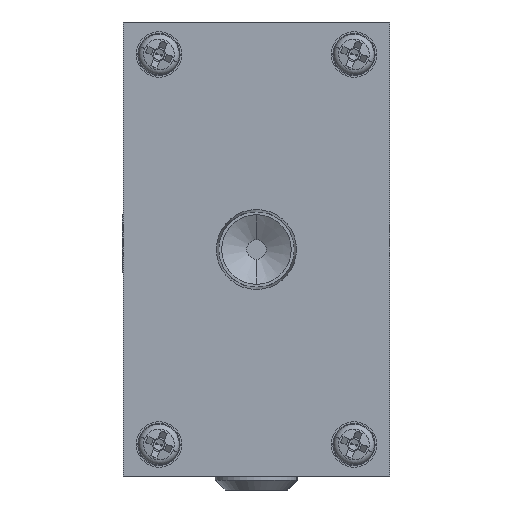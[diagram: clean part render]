
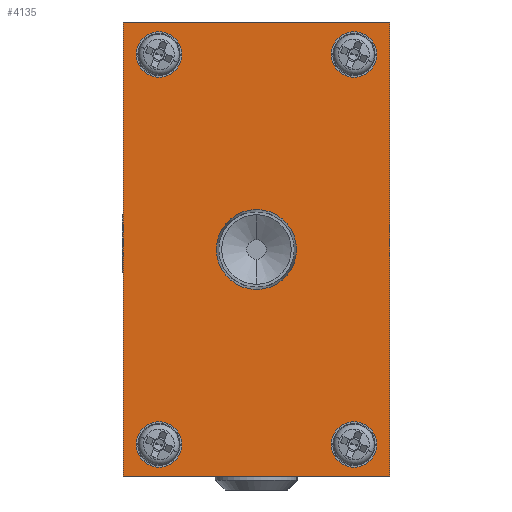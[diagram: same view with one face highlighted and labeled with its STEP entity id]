
A CAD part, left-side view. The second image highlights one B-rep face of the part: STEP entity #4135.
In plain terms, the highlighted planar face has unit normal (-1, 0, 0) as drawn and (1, 0, 0) by its records, which use the part's own axes.
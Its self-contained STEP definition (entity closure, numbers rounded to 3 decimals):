
#33 = ORIENTED_EDGE ( 'NONE', *, *, #12981, .F. ) ;
#87 = CARTESIAN_POINT ( 'NONE',  ( 67.5, 20.5, -35. ) ) ;
#346 = CARTESIAN_POINT ( 'NONE',  ( 67.5, 15., 30. ) ) ;
#549 = CIRCLE ( 'NONE', #6813, 3.5 ) ;
#817 = AXIS2_PLACEMENT_3D ( 'NONE', #1115, #1052, #13049 ) ;
#828 = LINE ( 'NONE', #14272, #14382 ) ;
#856 = VECTOR ( 'NONE', #16333, 1000. ) ;
#944 = DIRECTION ( 'NONE',  ( 0., 1., 0. ) ) ;
#1022 = EDGE_CURVE ( 'NONE', #16187, #15385, #13229, .T. ) ;
#1052 = DIRECTION ( 'NONE',  ( 1., 0., 0. ) ) ;
#1115 = CARTESIAN_POINT ( 'NONE',  ( 67.5, 0., 0. ) ) ;
#1361 = DIRECTION ( 'NONE',  ( 1., 0., 0. ) ) ;
#1448 = EDGE_LOOP ( 'NONE', ( #11435, #12507 ) ) ;
#1555 = CIRCLE ( 'NONE', #2667, 3.5 ) ;
#1631 = EDGE_CURVE ( 'NONE', #7691, #11756, #7262, .T. ) ;
#1636 = DIRECTION ( 'NONE',  ( 0., 1., 0. ) ) ;
#1683 = FACE_OUTER_BOUND ( 'NONE', #8848, .T. ) ;
#1716 = VERTEX_POINT ( 'NONE', #16175 ) ;
#1721 = DIRECTION ( 'NONE',  ( 1., 0., 0. ) ) ;
#1758 = CARTESIAN_POINT ( 'NONE',  ( 67.5, -18.5, 30. ) ) ;
#1786 = DIRECTION ( 'NONE',  ( 0., 1., 0. ) ) ;
#1804 = DIRECTION ( 'NONE',  ( 1., 0., 0. ) ) ;
#1808 = AXIS2_PLACEMENT_3D ( 'NONE', #346, #4069, #13270 ) ;
#2008 = EDGE_CURVE ( 'NONE', #2708, #2739, #14047, .T. ) ;
#2083 = EDGE_CURVE ( 'NONE', #2387, #1716, #2948, .T. ) ;
#2321 = DIRECTION ( 'NONE',  ( 1., 0., 0. ) ) ;
#2334 = DIRECTION ( 'NONE',  ( 0., 0., -1. ) ) ;
#2387 = VERTEX_POINT ( 'NONE', #9224 ) ;
#2667 = AXIS2_PLACEMENT_3D ( 'NONE', #16378, #4498, #8378 ) ;
#2704 = CARTESIAN_POINT ( 'NONE',  ( 67.5, -11.5, 30. ) ) ;
#2708 = VERTEX_POINT ( 'NONE', #4874 ) ;
#2739 = VERTEX_POINT ( 'NONE', #12696 ) ;
#2948 = CIRCLE ( 'NONE', #16710, 3.5 ) ;
#3026 = CARTESIAN_POINT ( 'NONE',  ( 67.5, 20.5, -35. ) ) ;
#3255 = ORIENTED_EDGE ( 'NONE', *, *, #2083, .F. ) ;
#3659 = CARTESIAN_POINT ( 'NONE',  ( 67.5, 15., -30. ) ) ;
#3984 = VERTEX_POINT ( 'NONE', #6004 ) ;
#4040 = EDGE_CURVE ( 'NONE', #5083, #11756, #12975, .T. ) ;
#4044 = AXIS2_PLACEMENT_3D ( 'NONE', #9855, #7352, #16519 ) ;
#4069 = DIRECTION ( 'NONE',  ( 1., 0., 0. ) ) ;
#4130 = ORIENTED_EDGE ( 'NONE', *, *, #14483, .F. ) ;
#4135 = ADVANCED_FACE ( 'NONE', ( #10908, #12556, #11921, #8454, #6401, #1683 ), #4962, .F. ) ;
#4244 = DIRECTION ( 'NONE',  ( 0., 1., 0. ) ) ;
#4470 = DIRECTION ( 'NONE',  ( 0., 1., 0. ) ) ;
#4498 = DIRECTION ( 'NONE',  ( 1., 0., 0. ) ) ;
#4543 = CIRCLE ( 'NONE', #5075, 3.5 ) ;
#4575 = VECTOR ( 'NONE', #4244, 1000. ) ;
#4874 = CARTESIAN_POINT ( 'NONE',  ( 67.5, 0., -6.154 ) ) ;
#4935 = EDGE_CURVE ( 'NONE', #7733, #15131, #1555, .T. ) ;
#4946 = AXIS2_PLACEMENT_3D ( 'NONE', #9595, #1721, #1786 ) ;
#4962 = PLANE ( 'NONE',  #14111 ) ;
#5075 = AXIS2_PLACEMENT_3D ( 'NONE', #7836, #1361, #12955 ) ;
#5083 = VERTEX_POINT ( 'NONE', #8723 ) ;
#5098 = DIRECTION ( 'NONE',  ( 0., 1., 0. ) ) ;
#5249 = AXIS2_PLACEMENT_3D ( 'NONE', #14258, #2321, #944 ) ;
#5382 = CIRCLE ( 'NONE', #4946, 3.5 ) ;
#5494 = CIRCLE ( 'NONE', #4044, 3.5 ) ;
#5632 = ORIENTED_EDGE ( 'NONE', *, *, #16003, .F. ) ;
#5803 = EDGE_CURVE ( 'NONE', #2739, #2708, #13238, .T. ) ;
#5860 = CARTESIAN_POINT ( 'NONE',  ( 67.5, 18.5, 30. ) ) ;
#6004 = CARTESIAN_POINT ( 'NONE',  ( 67.5, 11.5, 30. ) ) ;
#6092 = ORIENTED_EDGE ( 'NONE', *, *, #2008, .F. ) ;
#6143 = LINE ( 'NONE', #14837, #13755 ) ;
#6293 = ORIENTED_EDGE ( 'NONE', *, *, #16680, .F. ) ;
#6401 = FACE_BOUND ( 'NONE', #9297, .T. ) ;
#6813 = AXIS2_PLACEMENT_3D ( 'NONE', #13725, #1804, #4470 ) ;
#7262 = LINE ( 'NONE', #3026, #4575 ) ;
#7352 = DIRECTION ( 'NONE',  ( 1., 0., 0. ) ) ;
#7631 = ORIENTED_EDGE ( 'NONE', *, *, #5803, .F. ) ;
#7689 = CARTESIAN_POINT ( 'NONE',  ( 67.5, -20.5, -35. ) ) ;
#7691 = VERTEX_POINT ( 'NONE', #7689 ) ;
#7733 = VERTEX_POINT ( 'NONE', #7974 ) ;
#7746 = ORIENTED_EDGE ( 'NONE', *, *, #4935, .F. ) ;
#7836 = CARTESIAN_POINT ( 'NONE',  ( 67.5, 15., -30. ) ) ;
#7974 = CARTESIAN_POINT ( 'NONE',  ( 67.5, -18.5, -30. ) ) ;
#8378 = DIRECTION ( 'NONE',  ( 0., 1., 0. ) ) ;
#8454 = FACE_BOUND ( 'NONE', #15923, .T. ) ;
#8723 = CARTESIAN_POINT ( 'NONE',  ( 67.5, 20.5, 35. ) ) ;
#8848 = EDGE_LOOP ( 'NONE', ( #14874, #10345, #11810, #16329 ) ) ;
#9224 = CARTESIAN_POINT ( 'NONE',  ( 67.5, 18.5, -30. ) ) ;
#9253 = EDGE_CURVE ( 'NONE', #10392, #7691, #828, .T. ) ;
#9297 = EDGE_LOOP ( 'NONE', ( #3255, #5632 ) ) ;
#9379 = AXIS2_PLACEMENT_3D ( 'NONE', #12911, #11524, #14229 ) ;
#9595 = CARTESIAN_POINT ( 'NONE',  ( 67.5, 15., 30. ) ) ;
#9598 = EDGE_CURVE ( 'NONE', #10392, #5083, #6143, .T. ) ;
#9855 = CARTESIAN_POINT ( 'NONE',  ( 67.5, -15., 30. ) ) ;
#10105 = DIRECTION ( 'NONE',  ( 0., 0., 1. ) ) ;
#10345 = ORIENTED_EDGE ( 'NONE', *, *, #4040, .F. ) ;
#10392 = VERTEX_POINT ( 'NONE', #13744 ) ;
#10908 = FACE_BOUND ( 'NONE', #12589, .T. ) ;
#11435 = ORIENTED_EDGE ( 'NONE', *, *, #11980, .F. ) ;
#11524 = DIRECTION ( 'NONE',  ( 1., 0., 0. ) ) ;
#11730 = CIRCLE ( 'NONE', #1808, 3.5 ) ;
#11756 = VERTEX_POINT ( 'NONE', #87 ) ;
#11810 = ORIENTED_EDGE ( 'NONE', *, *, #9598, .F. ) ;
#11921 = FACE_BOUND ( 'NONE', #16377, .T. ) ;
#11980 = EDGE_CURVE ( 'NONE', #15385, #16187, #5494, .T. ) ;
#12507 = ORIENTED_EDGE ( 'NONE', *, *, #1022, .F. ) ;
#12556 = FACE_BOUND ( 'NONE', #1448, .T. ) ;
#12589 = EDGE_LOOP ( 'NONE', ( #6092, #7631 ) ) ;
#12696 = CARTESIAN_POINT ( 'NONE',  ( 67.5, 0., 6.154 ) ) ;
#12731 = DIRECTION ( 'NONE',  ( -1., 0., 0. ) ) ;
#12904 = CARTESIAN_POINT ( 'NONE',  ( 67.5, 20.5, 35. ) ) ;
#12911 = CARTESIAN_POINT ( 'NONE',  ( 67.5, 0., 0. ) ) ;
#12955 = DIRECTION ( 'NONE',  ( 0., 1., 0. ) ) ;
#12975 = LINE ( 'NONE', #13997, #856 ) ;
#12977 = DIRECTION ( 'NONE',  ( 1., 0., 0. ) ) ;
#12981 = EDGE_CURVE ( 'NONE', #15131, #7733, #549, .T. ) ;
#13049 = DIRECTION ( 'NONE',  ( 0., 0., -1. ) ) ;
#13064 = VERTEX_POINT ( 'NONE', #5860 ) ;
#13229 = CIRCLE ( 'NONE', #5249, 3.5 ) ;
#13238 = CIRCLE ( 'NONE', #817, 6.154 ) ;
#13270 = DIRECTION ( 'NONE',  ( 0., 1., 0. ) ) ;
#13725 = CARTESIAN_POINT ( 'NONE',  ( 67.5, -15., -30. ) ) ;
#13744 = CARTESIAN_POINT ( 'NONE',  ( 67.5, -20.5, 35. ) ) ;
#13755 = VECTOR ( 'NONE', #1636, 1000. ) ;
#13916 = CARTESIAN_POINT ( 'NONE',  ( 67.5, -11.5, -30. ) ) ;
#13997 = CARTESIAN_POINT ( 'NONE',  ( 67.5, 20.5, 35. ) ) ;
#14047 = CIRCLE ( 'NONE', #9379, 6.154 ) ;
#14111 = AXIS2_PLACEMENT_3D ( 'NONE', #12904, #12731, #10105 ) ;
#14229 = DIRECTION ( 'NONE',  ( 0., 0., -1. ) ) ;
#14258 = CARTESIAN_POINT ( 'NONE',  ( 67.5, -15., 30. ) ) ;
#14272 = CARTESIAN_POINT ( 'NONE',  ( 67.5, -20.5, 35. ) ) ;
#14382 = VECTOR ( 'NONE', #2334, 1000. ) ;
#14483 = EDGE_CURVE ( 'NONE', #13064, #3984, #5382, .T. ) ;
#14837 = CARTESIAN_POINT ( 'NONE',  ( 67.5, 20.5, 35. ) ) ;
#14874 = ORIENTED_EDGE ( 'NONE', *, *, #1631, .T. ) ;
#15131 = VERTEX_POINT ( 'NONE', #13916 ) ;
#15385 = VERTEX_POINT ( 'NONE', #2704 ) ;
#15923 = EDGE_LOOP ( 'NONE', ( #33, #7746 ) ) ;
#16003 = EDGE_CURVE ( 'NONE', #1716, #2387, #4543, .T. ) ;
#16175 = CARTESIAN_POINT ( 'NONE',  ( 67.5, 11.5, -30. ) ) ;
#16187 = VERTEX_POINT ( 'NONE', #1758 ) ;
#16329 = ORIENTED_EDGE ( 'NONE', *, *, #9253, .T. ) ;
#16333 = DIRECTION ( 'NONE',  ( 0., 0., -1. ) ) ;
#16377 = EDGE_LOOP ( 'NONE', ( #4130, #6293 ) ) ;
#16378 = CARTESIAN_POINT ( 'NONE',  ( 67.5, -15., -30. ) ) ;
#16519 = DIRECTION ( 'NONE',  ( 0., 1., 0. ) ) ;
#16680 = EDGE_CURVE ( 'NONE', #3984, #13064, #11730, .T. ) ;
#16710 = AXIS2_PLACEMENT_3D ( 'NONE', #3659, #12977, #5098 ) ;
